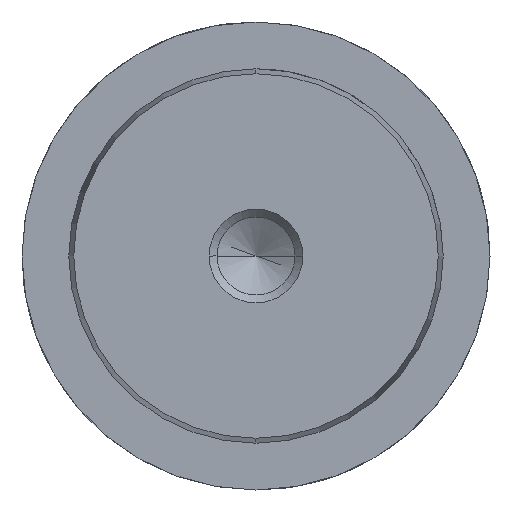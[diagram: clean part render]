
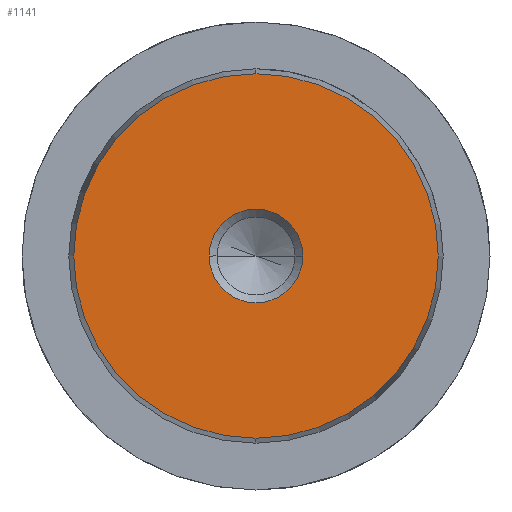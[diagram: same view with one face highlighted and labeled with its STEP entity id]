
A CAD part, left-side view. The second image highlights one B-rep face of the part: STEP entity #1141.
In plain terms, the highlighted planar face has unit normal (-1, 0, 0).
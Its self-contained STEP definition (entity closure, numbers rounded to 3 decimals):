
#1055=CARTESIAN_POINT('Vertex',(0.,0.,-15.578)) ;
#1058=CARTESIAN_POINT('Axis2P3D Location',(0.,0.,0.)) ;
#1062=CARTESIAN_POINT('Vertex',(0.,15.578,0.)) ;
#1065=CARTESIAN_POINT('Axis2P3D Location',(0.,0.,0.)) ;
#1069=CARTESIAN_POINT('Vertex',(0.,0.,15.578)) ;
#1091=CARTESIAN_POINT('Axis2P3D Location',(0.,0.,0.)) ;
#1095=CARTESIAN_POINT('Vertex',(0.,-15.578,0.)) ;
#1098=CARTESIAN_POINT('Axis2P3D Location',(0.,0.,0.)) ;
#1112=CARTESIAN_POINT('Axis2P3D Location',(0.,0.,0.)) ;
#1123=CARTESIAN_POINT('Axis2P3D Location',(0.,0.,0.)) ;
#1127=CARTESIAN_POINT('Vertex',(0.,4.,0.)) ;
#1129=CARTESIAN_POINT('Vertex',(0.,-4.,0.)) ;
#1132=CARTESIAN_POINT('Axis2P3D Location',(0.,0.,0.)) ;
#1059=DIRECTION('Axis2P3D Direction',(1.,-0.,0.)) ;
#1066=DIRECTION('Axis2P3D Direction',(1.,-0.,0.)) ;
#1092=DIRECTION('Axis2P3D Direction',(1.,0.,-0.)) ;
#1099=DIRECTION('Axis2P3D Direction',(1.,0.,-0.)) ;
#1113=DIRECTION('Axis2P3D Direction',(1.,0.,-0.)) ;
#1114=DIRECTION('Axis2P3D XDirection',(-0.,0.,-1.)) ;
#1124=DIRECTION('Axis2P3D Direction',(1.,0.,-0.)) ;
#1133=DIRECTION('Axis2P3D Direction',(1.,0.,-0.)) ;
#1060=AXIS2_PLACEMENT_3D('Circle Axis2P3D',#1058,#1059,$) ;
#1067=AXIS2_PLACEMENT_3D('Circle Axis2P3D',#1065,#1066,$) ;
#1093=AXIS2_PLACEMENT_3D('Circle Axis2P3D',#1091,#1092,$) ;
#1100=AXIS2_PLACEMENT_3D('Circle Axis2P3D',#1098,#1099,$) ;
#1115=AXIS2_PLACEMENT_3D('Plane Axis2P3D',#1112,#1113,#1114) ;
#1125=AXIS2_PLACEMENT_3D('Circle Axis2P3D',#1123,#1124,$) ;
#1134=AXIS2_PLACEMENT_3D('Circle Axis2P3D',#1132,#1133,$) ;
#1118=ORIENTED_EDGE('',*,*,#1064,.F.) ;
#1119=ORIENTED_EDGE('',*,*,#1102,.F.) ;
#1120=ORIENTED_EDGE('',*,*,#1097,.F.) ;
#1121=ORIENTED_EDGE('',*,*,#1071,.F.) ;
#1138=ORIENTED_EDGE('',*,*,#1131,.T.) ;
#1139=ORIENTED_EDGE('',*,*,#1136,.T.) ;
#1140=FACE_BOUND('',#1137,.T.) ;
#1141=ADVANCED_FACE('719-32x224',(#1122,#1140),#1116,.F.) ;
#1061=CIRCLE('generated circle',#1060,15.578) ;
#1068=CIRCLE('generated circle',#1067,15.578) ;
#1094=CIRCLE('generated circle',#1093,15.578) ;
#1101=CIRCLE('generated circle',#1100,15.578) ;
#1126=CIRCLE('generated circle',#1125,4.) ;
#1135=CIRCLE('generated circle',#1134,4.) ;
#1064=EDGE_CURVE('',#1056,#1063,#1061,.T.) ;
#1071=EDGE_CURVE('',#1063,#1070,#1068,.T.) ;
#1097=EDGE_CURVE('',#1070,#1096,#1094,.T.) ;
#1102=EDGE_CURVE('',#1096,#1056,#1101,.T.) ;
#1131=EDGE_CURVE('',#1128,#1130,#1126,.T.) ;
#1136=EDGE_CURVE('',#1130,#1128,#1135,.T.) ;
#1117=EDGE_LOOP('',(#1118,#1119,#1120,#1121)) ;
#1137=EDGE_LOOP('',(#1138,#1139)) ;
#1122=FACE_OUTER_BOUND('',#1117,.T.) ;
#1116=PLANE('Plane',#1115) ;
#1056=VERTEX_POINT('',#1055) ;
#1063=VERTEX_POINT('',#1062) ;
#1070=VERTEX_POINT('',#1069) ;
#1096=VERTEX_POINT('',#1095) ;
#1128=VERTEX_POINT('',#1127) ;
#1130=VERTEX_POINT('',#1129) ;
